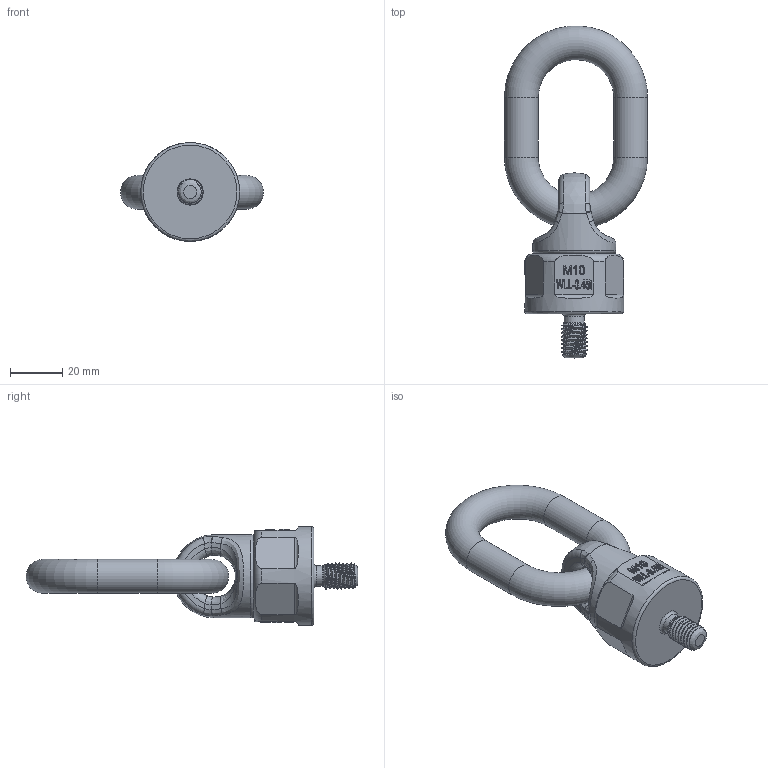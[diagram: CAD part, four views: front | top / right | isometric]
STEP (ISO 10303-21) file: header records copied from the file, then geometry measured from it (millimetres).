
FILE_DESCRIPTION(/* description */ (''),/* implementation_level */ '2;1');
FILE_NAME(/* name */ 'YTJ-M10.stp',/* time_stamp */ '2025-04-02T10:27:48+08:00',/* author */ (''),/* organization */ (''),/* preprocessor_version */ 'ST-DEVELOPER v16',/* originating_system */ 'SIEMENS PLM Software NX 10.0',/* authorisation */ '');
FILE_SCHEMA (('AP203_CONFIGURATION_CONTROLLED_3D_DESIGN_OF_MECHANICAL_PARTS_AND_ASSEMBLIES_MIM_LF { 1 0 10303 403 2 1 2}'));
Length unit declared in the file: millimetre
Products named in the file (1): Admi177C9AD32hxe
Bounding box: 55 x 127.63 x 38 mm (x, y, z)
Volume: 59726 mm3; surface area: 18467.9 mm2
Topology: 3 solids, 3 shells, 290 faces, 738 edges, 480 vertices
Faces by surface type: plane 163, extrusion 59, bspline 24, cylinder 21, torus 20, cone 2, sphere 1
Full cylindrical faces by diameter (mm): 7.8 x1, 13 x2, 18.8 x1, 19.9 x1, 31.985 x1, 38 x1
Entity records: 12352 total; most frequent: CARTESIAN_POINT 5981, ORIENTED_EDGE 1400, DIRECTION 1017, EDGE_CURVE 700, VERTEX_POINT 466, VECTOR 371, EDGE_LOOP 340, B_SPLINE_CURVE_WITH_KNOTS 331
